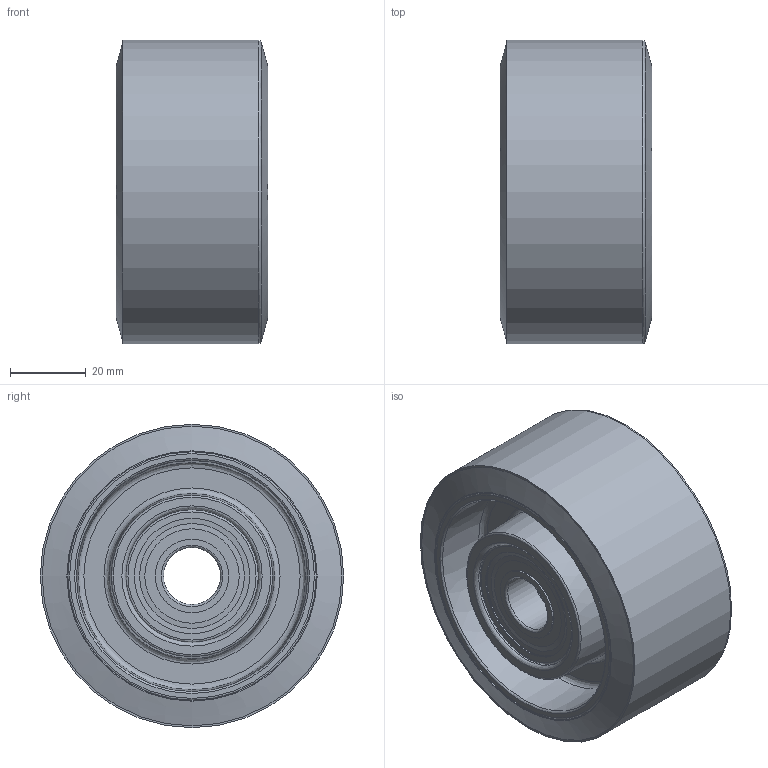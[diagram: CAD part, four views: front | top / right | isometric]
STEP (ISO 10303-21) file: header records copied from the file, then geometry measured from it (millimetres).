
FILE_DESCRIPTION(('STEP AP203'),'2;1');
FILE_NAME('8003CC_CL.stp','2010-04-29T12:53:44',(''),(''),'2009.1.108','THINKDESIGN','');
FILE_SCHEMA(('CONFIG_CONTROL_DESIGN'));
Length unit declared in the file: millimetre
Bounding box: 40 x 80 x 80 mm (x, y, z)
Volume: 131604.2 mm3; surface area: 60234.5 mm2
Topology: 9 solids, 9 shells, 135 faces, 360 edges, 270 vertices
Faces by surface type: bspline 77, plane 29, cylinder 29
Full cylindrical faces by diameter (mm): 15 x2, 16 x1, 19.4 x6, 20 x1, 21.7 x4, 29.2 x4, 30.4 x6, 35 x4, 80 x1
Entity records: 22680 total; most frequent: CARTESIAN_POINT 19166, DIRECTION 720, ORIENTED_EDGE 656, AXIS2_PLACEMENT_3D 334, EDGE_CURVE 328, CIRCLE 276, VERTEX_POINT 238, EDGE_LOOP 148
